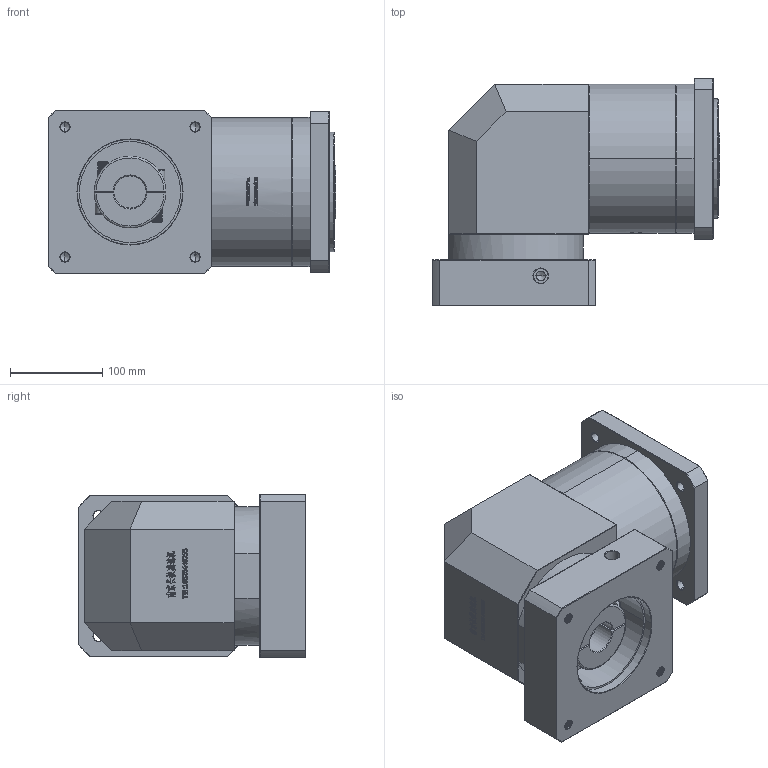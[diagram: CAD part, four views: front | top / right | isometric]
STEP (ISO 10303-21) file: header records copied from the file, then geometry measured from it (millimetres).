
FILE_DESCRIPTION (( 'STEP AP214' ), '1' );
FILE_NAME ('ZFR160A-K35-L2-35-114.3-200-M12.step', '2023-03-22T11:48:55', ( '' ), ( '' ), 'SwSTEP 2.0', 'SolidWorks 2016', '' );
FILE_SCHEMA (( 'AUTOMOTIVE_DESIGN' ));
Length unit declared in the file: millimetre
Products named in the file (1): ZFR160A-K35-L2-35-114.3-200-M12
Bounding box: 312.7 x 247.5 x 178 mm (x, y, z)
Volume: 7764489.4 mm3; surface area: 481598.5 mm2
Topology: 6 solids, 6 shells, 2444 faces, 6438 edges, 4147 vertices
Faces by surface type: plane 1266, bspline 490, cylinder 364, cone 304, torus 20
Entity records: 135413 total; most frequent: CARTESIAN_POINT 52219, ORIENTED_EDGE 12820, DIRECTION 9786, EDGE_CURVE 6410, VERTEX_POINT 4147, VECTOR 4088, LINE 4088, AXIS2_PLACEMENT_3D 2849
